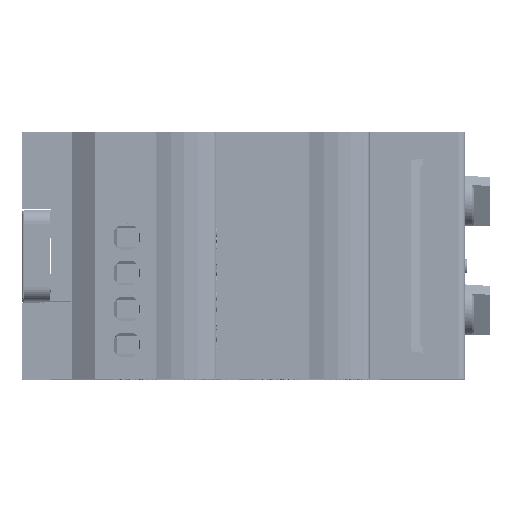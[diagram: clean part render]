
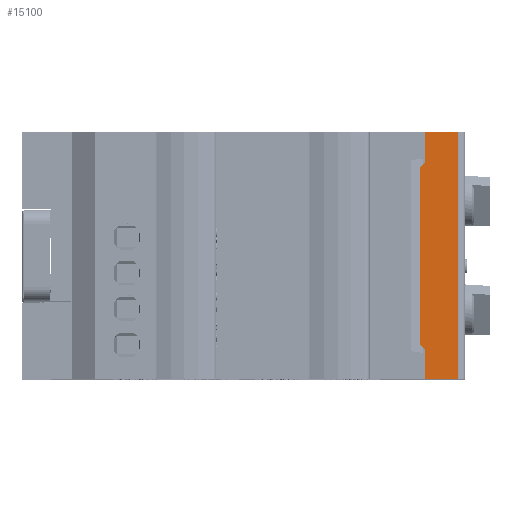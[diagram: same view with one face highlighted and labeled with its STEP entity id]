
A CAD part, top view. The second image highlights one B-rep face of the part: STEP entity #15100.
In plain terms, the highlighted planar face has unit normal (0, 0, 1) as drawn and (0, -1, 0) by its records, which use the part's own axes.
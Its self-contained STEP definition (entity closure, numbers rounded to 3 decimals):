
#15100=ADVANCED_FACE('',(#251315),#251317,.F.);
#251315=FACE_BOUND('',#251316,.T.);
#251316=EDGE_LOOP('',(#429454,#429455,#429456,#429457,#429458,#429459,#429460,#429461));
#251317=PLANE('',#251318);
#251318=AXIS2_PLACEMENT_3D('',#251319,#251320,#251321);
#251319=CARTESIAN_POINT('',(-17.5,-22.6,1.5));
#251320=DIRECTION('',(0.,1.,-0.));
#251321=DIRECTION('',(-1.,0.,0.));
#429454=ORIENTED_EDGE('',*,*,#610226,.T.);
#429455=ORIENTED_EDGE('',*,*,#610234,.T.);
#429456=ORIENTED_EDGE('',*,*,#610232,.F.);
#429457=ORIENTED_EDGE('',*,*,#610284,.F.);
#429458=ORIENTED_EDGE('',*,*,#610285,.T.);
#429459=ORIENTED_EDGE('',*,*,#610286,.F.);
#429460=ORIENTED_EDGE('',*,*,#610287,.T.);
#429461=ORIENTED_EDGE('',*,*,#610288,.F.);
#610226=EDGE_CURVE('',#686554,#686552,#686555,.T.);
#610232=EDGE_CURVE('',#686562,#686564,#686565,.T.);
#610234=EDGE_CURVE('',#686552,#686564,#686567,.T.);
#610284=EDGE_CURVE('',#686653,#686562,#686654,.T.);
#610285=EDGE_CURVE('',#686653,#686655,#686656,.T.);
#610286=EDGE_CURVE('',#686657,#686655,#686658,.T.);
#610287=EDGE_CURVE('',#686657,#686659,#686660,.T.);
#610288=EDGE_CURVE('',#686554,#686659,#686661,.T.);
#686552=VERTEX_POINT('',#816015);
#686554=VERTEX_POINT('',#816020);
#686555=LINE('',#816021,#816022);
#686562=VERTEX_POINT('',#816039);
#686564=VERTEX_POINT('',#816043);
#686565=LINE('',#816044,#816045);
#686567=LINE('',#816051,#816052);
#686653=VERTEX_POINT('',#816237);
#686654=LINE('',#816238,#816239);
#686655=VERTEX_POINT('',#816241);
#686656=LINE('',#816242,#816243);
#686657=VERTEX_POINT('',#816245);
#686658=LINE('',#816246,#816247);
#686659=VERTEX_POINT('',#816249);
#686660=LINE('',#816250,#816251);
#686661=LINE('',#816253,#816254);
#816015=CARTESIAN_POINT('',(-17.5,-22.6,1.));
#816020=CARTESIAN_POINT('',(-17.5,-22.6,5.75));
#816021=CARTESIAN_POINT('',(-17.5,-22.6,5.75));
#816022=VECTOR('',#816023,1.);
#816023=DIRECTION('',(0.,0.,-1.));
#816039=CARTESIAN_POINT('',(17.5,-22.6,5.75));
#816043=CARTESIAN_POINT('',(17.5,-22.6,1.));
#816044=CARTESIAN_POINT('',(17.5,-22.6,5.75));
#816045=VECTOR('',#816046,1.);
#816046=DIRECTION('',(0.,0.,-1.));
#816051=CARTESIAN_POINT('',(-17.5,-22.6,1.));
#816052=VECTOR('',#816053,1.);
#816053=DIRECTION('',(1.,0.,0.));
#816237=CARTESIAN_POINT('',(13.2,-22.6,5.75));
#816238=CARTESIAN_POINT('',(13.2,-22.6,5.75));
#816239=VECTOR('',#816240,1.);
#816240=DIRECTION('',(1.,0.,0.));
#816241=CARTESIAN_POINT('',(12.5,-22.6,6.45));
#816242=CARTESIAN_POINT('',(13.2,-22.6,5.75));
#816243=VECTOR('',#816244,1.);
#816244=DIRECTION('',(-0.707,0.,0.707));
#816245=CARTESIAN_POINT('',(-12.5,-22.6,6.45));
#816246=CARTESIAN_POINT('',(-12.5,-22.6,6.45));
#816247=VECTOR('',#816248,1.);
#816248=DIRECTION('',(1.,0.,0.));
#816249=CARTESIAN_POINT('',(-13.2,-22.6,5.75));
#816250=CARTESIAN_POINT('',(-12.5,-22.6,6.45));
#816251=VECTOR('',#816252,1.);
#816252=DIRECTION('',(-0.707,0.,-0.707));
#816253=CARTESIAN_POINT('',(-17.5,-22.6,5.75));
#816254=VECTOR('',#816255,1.);
#816255=DIRECTION('',(1.,0.,0.));
